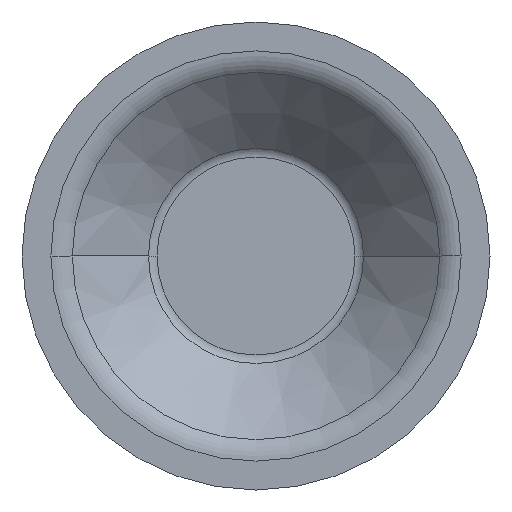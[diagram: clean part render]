
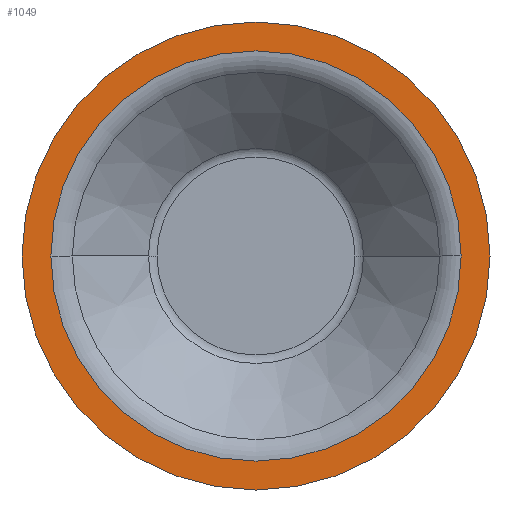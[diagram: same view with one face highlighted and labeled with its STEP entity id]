
A CAD part, front view. The second image highlights one B-rep face of the part: STEP entity #1049.
In plain terms, the highlighted planar face has unit normal (0, -1, 0).
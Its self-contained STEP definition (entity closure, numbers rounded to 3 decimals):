
#54 = CARTESIAN_POINT ( 'NONE',  ( 0., -17., 0. ) ) ;
#63 = EDGE_CURVE ( 'NONE', #379, #734, #1344, .T. ) ;
#134 = CARTESIAN_POINT ( 'NONE',  ( -38., -17., 0. ) ) ;
#209 = CARTESIAN_POINT ( 'NONE',  ( 33.312, -17., 0. ) ) ;
#247 = DIRECTION ( 'NONE',  ( 0., -1., 0. ) ) ;
#250 = AXIS2_PLACEMENT_3D ( 'NONE', #772, #247, #994 ) ;
#319 = VERTEX_POINT ( 'NONE', #134 ) ;
#322 = DIRECTION ( 'NONE',  ( 0., -1., 0. ) ) ;
#370 = EDGE_LOOP ( 'NONE', ( #701, #1633 ) ) ;
#379 = VERTEX_POINT ( 'NONE', #859 ) ;
#418 = DIRECTION ( 'NONE',  ( 0., -1., 0. ) ) ;
#424 = DIRECTION ( 'NONE',  ( 1., 0., 0. ) ) ;
#512 = FACE_BOUND ( 'NONE', #370, .T. ) ;
#565 = EDGE_CURVE ( 'NONE', #988, #319, #1419, .T. ) ;
#679 = DIRECTION ( 'NONE',  ( -1., 0., 0. ) ) ;
#682 = DIRECTION ( 'NONE',  ( 0., -1., 0. ) ) ;
#701 = ORIENTED_EDGE ( 'NONE', *, *, #63, .F. ) ;
#734 = VERTEX_POINT ( 'NONE', #209 ) ;
#772 = CARTESIAN_POINT ( 'NONE',  ( 38., -17., 0. ) ) ;
#791 = CARTESIAN_POINT ( 'NONE',  ( 0., -17., 0. ) ) ;
#796 = EDGE_CURVE ( 'NONE', #319, #988, #937, .T. ) ;
#836 = EDGE_LOOP ( 'NONE', ( #1350, #977 ) ) ;
#859 = CARTESIAN_POINT ( 'NONE',  ( -33.312, -17., 0. ) ) ;
#937 = CIRCLE ( 'NONE', #1048, 38. ) ;
#977 = ORIENTED_EDGE ( 'NONE', *, *, #796, .T. ) ;
#988 = VERTEX_POINT ( 'NONE', #1513 ) ;
#994 = DIRECTION ( 'NONE',  ( 1., 0., 0. ) ) ;
#999 = PLANE ( 'NONE',  #250 ) ;
#1005 = AXIS2_PLACEMENT_3D ( 'NONE', #54, #682, #1446 ) ;
#1042 = AXIS2_PLACEMENT_3D ( 'NONE', #1591, #322, #679 ) ;
#1048 = AXIS2_PLACEMENT_3D ( 'NONE', #791, #418, #424 ) ;
#1049 = ADVANCED_FACE ( 'NONE', ( #512, #1401 ), #999, .T. ) ;
#1195 = CARTESIAN_POINT ( 'NONE',  ( 0., -17., 0. ) ) ;
#1203 = EDGE_CURVE ( 'NONE', #734, #379, #1362, .T. ) ;
#1278 = AXIS2_PLACEMENT_3D ( 'NONE', #1195, #1329, #1589 ) ;
#1329 = DIRECTION ( 'NONE',  ( 0., -1., 0. ) ) ;
#1344 = CIRCLE ( 'NONE', #1042, 33.312 ) ;
#1350 = ORIENTED_EDGE ( 'NONE', *, *, #565, .T. ) ;
#1362 = CIRCLE ( 'NONE', #1278, 33.312 ) ;
#1401 = FACE_OUTER_BOUND ( 'NONE', #836, .T. ) ;
#1419 = CIRCLE ( 'NONE', #1005, 38. ) ;
#1446 = DIRECTION ( 'NONE',  ( 1., 0., 0. ) ) ;
#1513 = CARTESIAN_POINT ( 'NONE',  ( 38., -17., 0. ) ) ;
#1589 = DIRECTION ( 'NONE',  ( -1., 0., 0. ) ) ;
#1591 = CARTESIAN_POINT ( 'NONE',  ( 0., -17., 0. ) ) ;
#1633 = ORIENTED_EDGE ( 'NONE', *, *, #1203, .F. ) ;
